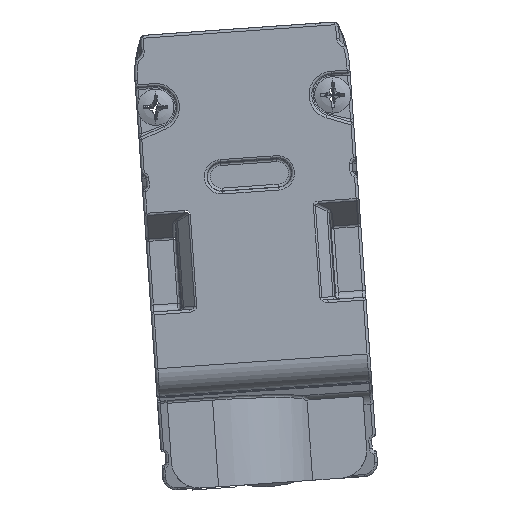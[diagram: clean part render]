
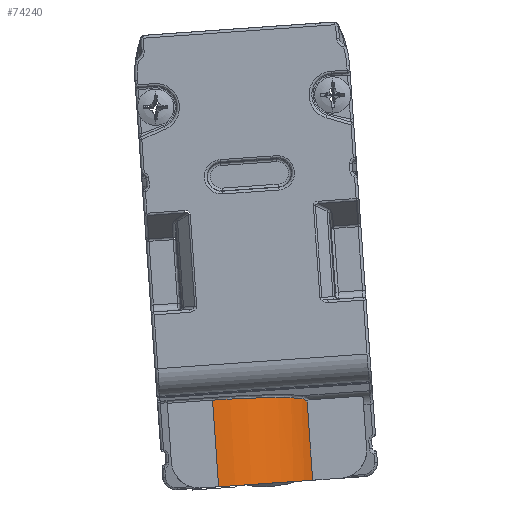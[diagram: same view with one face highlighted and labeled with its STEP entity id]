
A CAD part, front view. The second image highlights one B-rep face of the part: STEP entity #74240.
In plain terms, the highlighted cylindrical face has radius 7.5 mm (diameter 15 mm), a partial arc.
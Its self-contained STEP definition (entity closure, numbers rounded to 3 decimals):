
#71088=CARTESIAN_POINT('',(-41.487,-21.278,
20.743));
#71089=CARTESIAN_POINT('',(-41.431,-21.188,
20.739));
#71090=CARTESIAN_POINT('',(-41.328,-21.018,
20.709));
#71091=CARTESIAN_POINT('',(-41.192,-20.783,
20.599));
#71092=CARTESIAN_POINT('',(-41.121,-20.655,
20.495));
#71093=CARTESIAN_POINT('',(-41.088,-20.597,
20.435));
#71792=DIRECTION('',(-0.07,0.,0.998));
#71793=VECTOR('',#71792,5.56);
#71794=CARTESIAN_POINT('',(-40.701,-20.597,
14.888));
#71795=LINE('',#71794,#71793);
#71799=DIRECTION('',(0.07,0.,-0.998));
#71800=VECTOR('',#71799,6.214);
#71801=CARTESIAN_POINT('',(-47.863,-24.818,
20.616));
#71802=LINE('',#71801,#71800);
#71806=CARTESIAN_POINT('',(-41.487,-21.278,
20.743));
#71807=CARTESIAN_POINT('',(-41.68,-21.586,
20.758));
#71808=CARTESIAN_POINT('',(-42.11,-22.174,
20.78));
#71809=CARTESIAN_POINT('',(-42.876,-22.954,
20.797));
#71810=CARTESIAN_POINT('',(-43.744,-23.616,
20.796));
#71811=CARTESIAN_POINT('',(-44.698,-24.145,
20.777));
#71812=CARTESIAN_POINT('',(-45.717,-24.531,
20.741));
#71813=CARTESIAN_POINT('',(-46.78,-24.766,
20.687));
#71814=CARTESIAN_POINT('',(-47.502,-24.818,
20.642));
#71815=CARTESIAN_POINT('',(-47.863,-24.818,
20.616));
#71859=CARTESIAN_POINT('',(-47.43,-17.318,
14.418));
#71860=DIRECTION('',(0.07,0.,-0.998));
#71861=DIRECTION('',(0.897,-0.437,0.063));
#71862=AXIS2_PLACEMENT_3D('',#71859,#71860,#71861);
#72790=CARTESIAN_POINT('',(-40.701,-20.597,
14.888));
#72791=CARTESIAN_POINT('',(-41.088,-20.597,
20.435));
#72792=VERTEX_POINT('',#72790);
#72793=VERTEX_POINT('',#72791);
#72794=VERTEX_POINT('',#71088);
#72795=VERTEX_POINT('',#71815);
#72796=CARTESIAN_POINT('',(-47.43,-24.818,
14.418));
#72797=VERTEX_POINT('',#72796);
#74227=CARTESIAN_POINT('',(-52.434,-17.318,
85.982));
#74228=DIRECTION('',(0.07,0.,-0.998));
#74229=DIRECTION('',(0.,-1.,0.));
#74230=AXIS2_PLACEMENT_3D('',#74227,#74228,#74229);
#74231=CYLINDRICAL_SURFACE('',#74230,7.5);
#74232=ORIENTED_EDGE('',*,*,#73426,.F.);
#74234=ORIENTED_EDGE('',*,*,#74233,.T.);
#74235=ORIENTED_EDGE('',*,*,#74210,.F.);
#74236=ORIENTED_EDGE('',*,*,#73367,.F.);
#74237=ORIENTED_EDGE('',*,*,#73398,.T.);
#74238=EDGE_LOOP('',(#74232,#74234,#74235,#74236,#74237));
#74239=FACE_OUTER_BOUND('',#74238,.F.);
#71094=B_SPLINE_CURVE_WITH_KNOTS('',3,(#71088,#71089,#71090,#71091,#71092,
#71093),.UNSPECIFIED.,.F.,.F.,(4,1,1,4),(0.,0.333,
0.667,1.),.UNSPECIFIED.);
#71816=B_SPLINE_CURVE_WITH_KNOTS('',3,(#71806,#71807,#71808,#71809,#71810,
#71811,#71812,#71813,#71814,#71815),.UNSPECIFIED.,.F.,.F.,(4,1,1,1,1,1,1,4),(
0.,0.143,0.286,0.429,0.571,
0.714,0.857,1.),.UNSPECIFIED.);
#71863=CIRCLE('',#71862,7.5);
#73367=EDGE_CURVE('',#72794,#72795,#71816,.T.);
#73398=EDGE_CURVE('',#72794,#72793,#71094,.T.);
#73426=EDGE_CURVE('',#72792,#72793,#71795,.T.);
#74210=EDGE_CURVE('',#72795,#72797,#71802,.T.);
#74233=EDGE_CURVE('',#72792,#72797,#71863,.T.);
#74240=ADVANCED_FACE('',(#74239),#74231,.T.);
